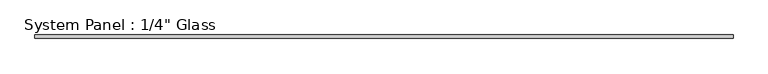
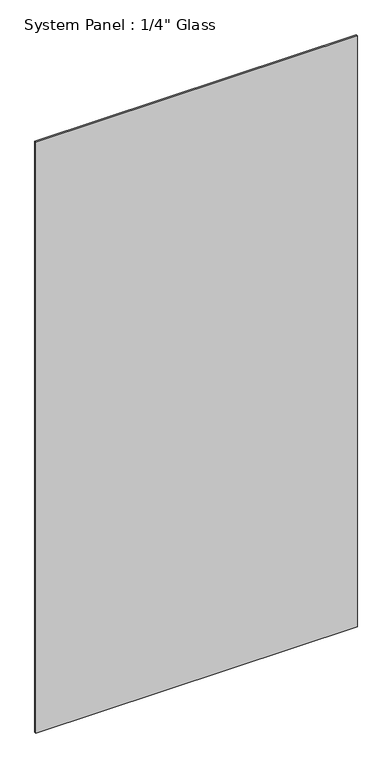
"""IFC4 building model written with IfcOpenShell, lengths in millimetres: plate geometry."""

from ifc_helpers import new_model, si_unit, origin, origin_with_axes, place, context, project, spatial, polyline, outline, extrude, source, transform, mapped, element, save


def plate_129ab9d0(model_context):
    return source(origin(), model_context, "Body", "SweptSolid", [
        extrude(outline(polyline([(641.0496835, -3.175), (-641.0496835, -3.175), (-641.0496835, 3.175), (641.0496835, 3.175), (641.0496835, -3.175)])), origin_with_axes(), (0.0, 0.0, 1.0), 2489.2),
    ])


if __name__ == "__main__":
    model = new_model("IFC4")
    model_context = context("Model", 3, world=origin())
    ifc_project = project(units=[si_unit("LENGTHUNIT", "METRE", prefix="MILLI")], contexts=[model_context])
    site = spatial("IfcSite", under=ifc_project)
    building = spatial("IfcBuilding", under=site)
    placement = place(None, origin())
    plate_shape = plate_129ab9d0(model_context)
    element("IfcPlate", 1, ObjectType="System Panel : 1/4\" Glass", at=placement, inside=building, context=model_context, shape_type="MappedRepresentation", body=[
        mapped(plate_shape, transform((0.0, 0.0, 0.0), x_axis=(1.0, 0.0, 0.0), y_axis=(0.0, 1.0, 0.0), z_axis=(0.0, 0.0, 1.0))),
    ])
    save(model, "model.ifc")
